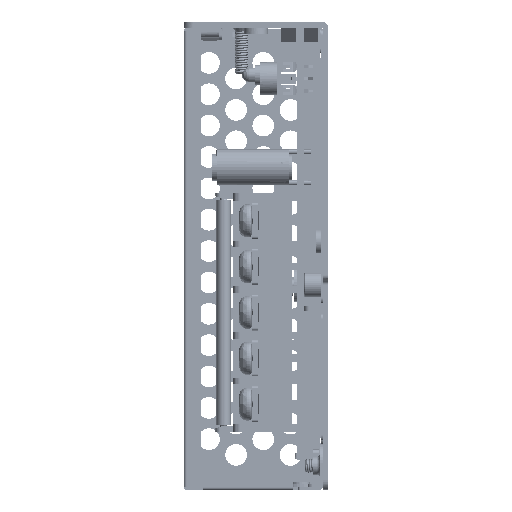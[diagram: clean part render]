
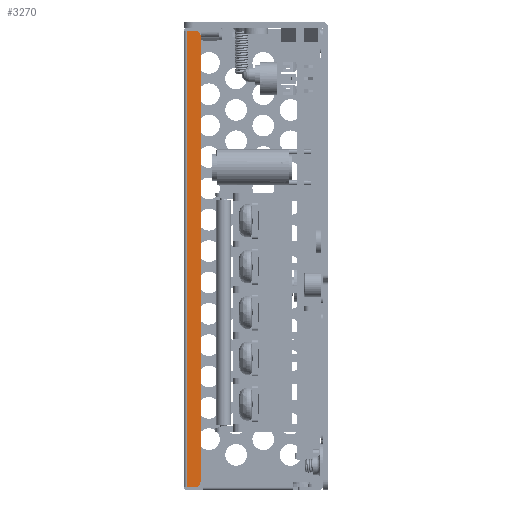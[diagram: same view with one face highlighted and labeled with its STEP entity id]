
A CAD part, left-side view. The second image highlights one B-rep face of the part: STEP entity #3270.
In plain terms, the highlighted planar face has unit normal (1, 0, 0).
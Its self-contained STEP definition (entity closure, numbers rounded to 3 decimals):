
#3270 = ADVANCED_FACE ( 'NONE', ( #60748 ), #61333, .F. ) ;
#3498 = CARTESIAN_POINT ( 'NONE',  ( -31.5, 27.5, -46.9 ) ) ;
#11593 = EDGE_CURVE ( 'NONE', #114646, #88045, #47253, .T. ) ;
#11874 = EDGE_CURVE ( 'NONE', #88045, #60627, #74871, .T. ) ;
#15479 = DIRECTION ( 'NONE',  ( 0., 0., 1. ) ) ;
#21272 = CARTESIAN_POINT ( 'NONE',  ( -31.5, 29.4, -47.9 ) ) ;
#21650 = CIRCLE ( 'NONE', #54006, 1. ) ;
#22842 = ORIENTED_EDGE ( 'NONE', *, *, #11874, .T. ) ;
#24625 = ORIENTED_EDGE ( 'NONE', *, *, #72876, .T. ) ;
#25037 = CARTESIAN_POINT ( 'NONE',  ( -31.5, 29.4, 46.7 ) ) ;
#25825 = CARTESIAN_POINT ( 'NONE',  ( -31.5, 27.5, 46.7 ) ) ;
#28566 = CIRCLE ( 'NONE', #110331, 1. ) ;
#31448 = CARTESIAN_POINT ( 'NONE',  ( -31.5, 29.4, 46.7 ) ) ;
#32229 = ORIENTED_EDGE ( 'NONE', *, *, #116685, .T. ) ;
#32788 = VECTOR ( 'NONE', #68020, 1000. ) ;
#34158 = CARTESIAN_POINT ( 'NONE',  ( -31.5, 27.95, -47.9 ) ) ;
#35473 = CARTESIAN_POINT ( 'NONE',  ( -31.5, 26.5, 45.7 ) ) ;
#41557 = VERTEX_POINT ( 'NONE', #82185 ) ;
#43675 = EDGE_LOOP ( 'NONE', ( #83307, #24625, #49659, #84444, #22842, #32229 ) ) ;
#47253 = LINE ( 'NONE', #25037, #32788 ) ;
#49659 = ORIENTED_EDGE ( 'NONE', *, *, #62052, .T. ) ;
#50610 = CARTESIAN_POINT ( 'NONE',  ( -31.5, 26.5, -0.6 ) ) ;
#50899 = AXIS2_PLACEMENT_3D ( 'NONE', #114935, #105978, #15479 ) ;
#54006 = AXIS2_PLACEMENT_3D ( 'NONE', #85926, #84736, #103807 ) ;
#56567 = DIRECTION ( 'NONE',  ( 1., 0., 0. ) ) ;
#60114 = LINE ( 'NONE', #50610, #63445 ) ;
#60627 = VERTEX_POINT ( 'NONE', #25825 ) ;
#60748 = FACE_OUTER_BOUND ( 'NONE', #43675, .T. ) ;
#61333 = PLANE ( 'NONE',  #50899 ) ;
#62052 = EDGE_CURVE ( 'NONE', #41557, #114646, #79974, .T. ) ;
#63445 = VECTOR ( 'NONE', #70184, 1000. ) ;
#65182 = VERTEX_POINT ( 'NONE', #35473 ) ;
#68020 = DIRECTION ( 'NONE',  ( 0., 0., 1. ) ) ;
#68745 = CARTESIAN_POINT ( 'NONE',  ( -31.5, 26.5, -46.9 ) ) ;
#70184 = DIRECTION ( 'NONE',  ( 0., 0., -1. ) ) ;
#72876 = EDGE_CURVE ( 'NONE', #100376, #41557, #28566, .T. ) ;
#74871 = LINE ( 'NONE', #84973, #105101 ) ;
#76129 = DIRECTION ( 'NONE',  ( 0., 0., 1. ) ) ;
#79974 = LINE ( 'NONE', #34158, #108816 ) ;
#82185 = CARTESIAN_POINT ( 'NONE',  ( -31.5, 27.5, -47.9 ) ) ;
#83307 = ORIENTED_EDGE ( 'NONE', *, *, #106896, .T. ) ;
#84444 = ORIENTED_EDGE ( 'NONE', *, *, #11593, .T. ) ;
#84736 = DIRECTION ( 'NONE',  ( 1., 0., 0. ) ) ;
#84973 = CARTESIAN_POINT ( 'NONE',  ( -31.5, 27.95, 46.7 ) ) ;
#85926 = CARTESIAN_POINT ( 'NONE',  ( -31.5, 27.5, 45.7 ) ) ;
#88045 = VERTEX_POINT ( 'NONE', #31448 ) ;
#97845 = DIRECTION ( 'NONE',  ( 0., 1., 0. ) ) ;
#100376 = VERTEX_POINT ( 'NONE', #68745 ) ;
#103807 = DIRECTION ( 'NONE',  ( 0., 0., 1. ) ) ;
#105101 = VECTOR ( 'NONE', #111811, 1000. ) ;
#105978 = DIRECTION ( 'NONE',  ( -1., 0., 0. ) ) ;
#106896 = EDGE_CURVE ( 'NONE', #65182, #100376, #60114, .T. ) ;
#108816 = VECTOR ( 'NONE', #97845, 1000. ) ;
#110331 = AXIS2_PLACEMENT_3D ( 'NONE', #3498, #56567, #76129 ) ;
#111811 = DIRECTION ( 'NONE',  ( 0., -1., 0. ) ) ;
#114646 = VERTEX_POINT ( 'NONE', #21272 ) ;
#114935 = CARTESIAN_POINT ( 'NONE',  ( -31.5, 30., -47.9 ) ) ;
#116685 = EDGE_CURVE ( 'NONE', #60627, #65182, #21650, .T. ) ;
